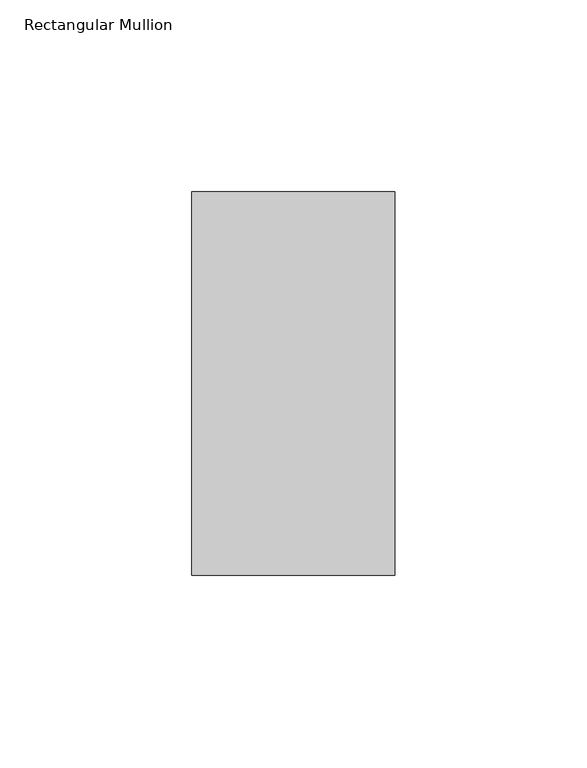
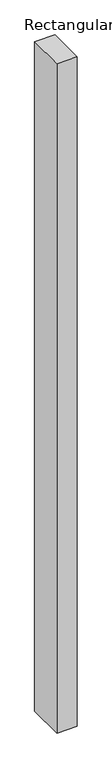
"""IFC4 building model written with IfcOpenShell, lengths in millimetres: member geometry, Rectangular Mullion : IMP219 100mm x 53mm Horizontal."""

from ifc_helpers import new_model, si_unit, frame, origin, place, context, project, spatial, polyline, outline, extrude, source, transform, mapped, element, save


def rectangular_mullion_98f855a2(model_context):
    return source(origin(), model_context, "Body", "SweptSolid", [
        extrude(outline(polyline([(-26.5, -50.0), (-26.5, 50.0), (26.5, 50.0), (26.5, -50.0), (-26.5, -50.0)])), frame((0.0, 0.0, -1845.5), z_axis=(0.0, 0.0, 1.0), x_axis=(1.0, 0.0, 0.0)), (0.0, 0.0, 1.0), 1845.5),
    ])


if __name__ == "__main__":
    model = new_model("IFC4")
    model_context = context("Model", 3, world=origin())
    ifc_project = project(units=[si_unit("LENGTHUNIT", "METRE", prefix="MILLI")], contexts=[model_context])
    site = spatial("IfcSite", under=ifc_project)
    building = spatial("IfcBuilding", under=site)
    placement = place(None, origin())
    rectangular_mullion_shape = rectangular_mullion_98f855a2(model_context)
    element("IfcMember", 1, ObjectType="Rectangular Mullion : IMP219 100mm x 53mm Horizontal", at=placement, inside=building, context=model_context, shape_type="MappedRepresentation", body=[
        mapped(rectangular_mullion_shape, transform((0.0, 0.0, 0.0), x_axis=(1.0, 0.0, 0.0), y_axis=(0.0, 1.0, 0.0), z_axis=(0.0, 0.0, 1.0))),
    ])
    save(model, "model.ifc")
